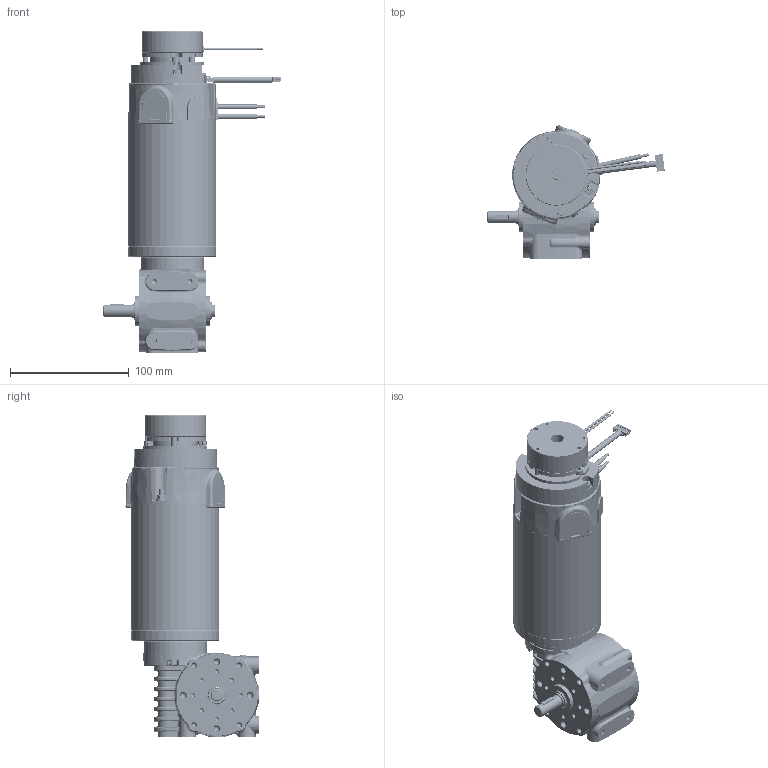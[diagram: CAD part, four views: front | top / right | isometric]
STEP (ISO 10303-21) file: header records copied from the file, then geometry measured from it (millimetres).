
FILE_DESCRIPTION (( 'STEP AP214' ), '1' );
FILE_NAME ('BRx70-60-GB80 - Incr Encoder - Brake - Shaft.STEP', '2025-09-10T14:51:34', ( '' ), ( '' ), 'SwSTEP 2.0', 'SolidWorks 2023', '' );
FILE_SCHEMA (( 'AUTOMOTIVE_DESIGN' ));
Length unit declared in the file: millimetre
Products named in the file (1): BRx70-60-GB80 - Incr Encoder - Brake - Shaft
Bounding box: 149.21 x 111.85 x 270.24 mm (x, y, z)
Surface area: 257196.1 mm2 (no closed solid volume)
Topology: 0 solids, 72 shells, 7977 faces, 20958 edges, 13217 vertices
Faces by surface type: cylinder 3334, plane 2474, cone 838, bspline 752, torus 503, sphere 76
Entity records: 391144 total; most frequent: CARTESIAN_POINT 119226, ORIENTED_EDGE 41560, DIRECTION 34566, EDGE_CURVE 20782, AXIS2_PLACEMENT_3D 14074, VERTEX_POINT 13217, EDGE_LOOP 8551, UNCERTAINTY_MEASURE_WITH_UNIT 8049
